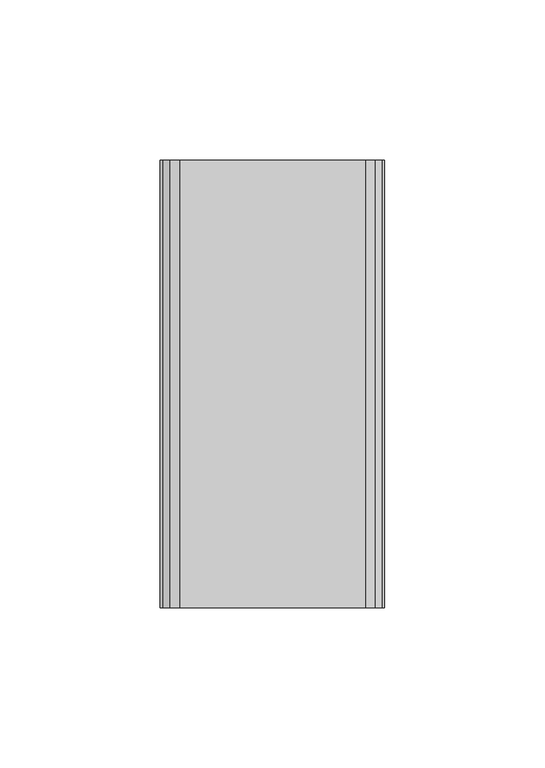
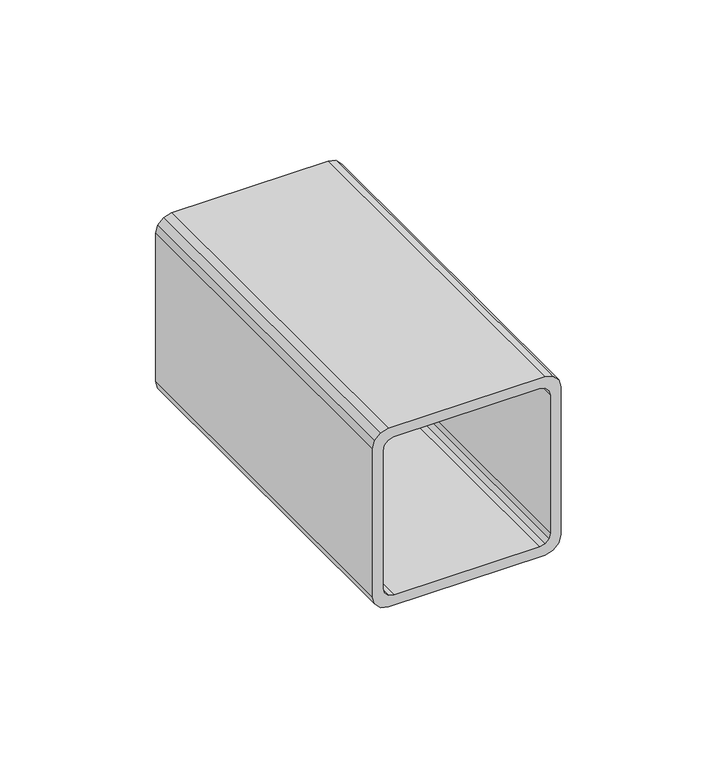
"""IFC4 building model written with IfcOpenShell, lengths in millimetres: beam geometry,  165582 :  165582."""

from ifc_helpers import new_model, si_unit, frame, origin, place, context, project, spatial, polyline, outline, extrude, source, transform, mapped, element, save


def beam_ca8ddc8e(model_context):
    return source(origin(), model_context, "Body", "SweptSolid", [
        extrude(outline(polyline([(6050.1992406, 15154.9999999), (6047.1992406, 15155.8038474), (6045.0030882, 15157.9999999), (6044.1992406, 15160.9999999), (6044.1992406, 15218.9999999), (6045.0030882, 15221.9999999), (6047.1992406, 15224.1961523), (6050.1992406, 15224.9999999), (6108.1992406, 15224.9999999), (6111.1992406, 15224.1961523), (6113.395393, 15221.9999999), (6114.1992406, 15218.9999999), (6114.1992406, 15160.9999999), (6113.395393, 15157.9999999), (6111.1992406, 15155.8038474), (6108.1992406, 15154.9999999), (6050.1992406, 15154.9999999)]), holes=[polyline([(6106.1992406, 15158.9999999), (6108.1992406, 15159.5358983), (6109.6633422, 15160.9999999), (6110.1992406, 15162.9999999), (6110.1992406, 15216.9999999), (6109.6633422, 15218.9999999), (6108.1992406, 15220.4641015), (6106.1992406, 15220.9999999), (6052.1992406, 15220.9999999), (6050.1992406, 15220.4641015), (6048.735139, 15218.9999999), (6048.1992406, 15216.9999999), (6048.1992406, 15162.9999999), (6048.735139, 15160.9999999), (6050.1992406, 15159.5358983), (6052.1992406, 15158.9999999), (6106.1992406, 15158.9999999)])]), frame((0.0, -114.45, 0.0), z_axis=(0.0, 1.0, 0.0), x_axis=(0.0, 0.0, 1.0)), (0.0, 0.0, 1.0), 139.45),
    ])


if __name__ == "__main__":
    model = new_model("IFC4")
    model_context = context("Model", 3, world=origin())
    ifc_project = project(units=[si_unit("LENGTHUNIT", "METRE", prefix="MILLI")], contexts=[model_context])
    site = spatial("IfcSite", under=ifc_project)
    building = spatial("IfcBuilding", under=site)
    placement = place(None, origin())
    beam_shape = beam_ca8ddc8e(model_context)
    element("IfcBeam", 1, ObjectType=" 165582 :  165582", at=placement, inside=building, context=model_context, shape_type="MappedRepresentation", body=[
        mapped(beam_shape, transform((0.0, 0.0, 0.0), x_axis=(1.0, 0.0, 0.0), y_axis=(0.0, 1.0, 0.0), z_axis=(0.0, 0.0, 1.0))),
    ])
    save(model, "model.ifc")
